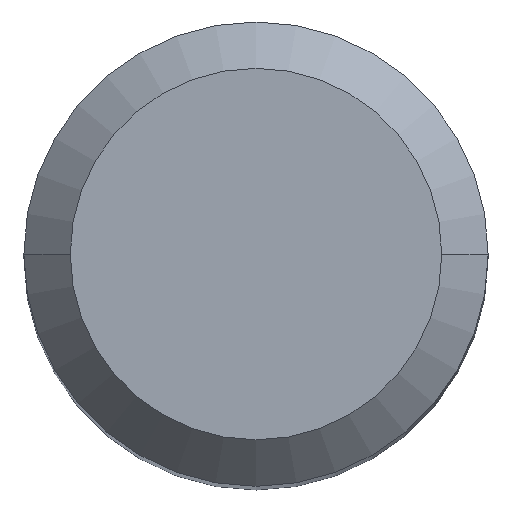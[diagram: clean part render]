
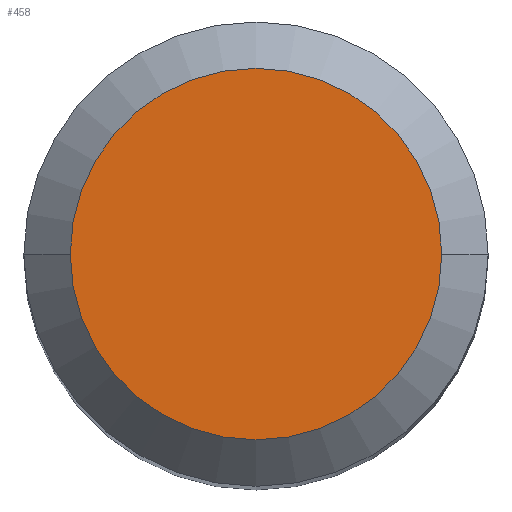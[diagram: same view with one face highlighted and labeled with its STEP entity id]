
A CAD part, top view. The second image highlights one B-rep face of the part: STEP entity #458.
In plain terms, the highlighted planar face has unit normal (0, 0, 1).
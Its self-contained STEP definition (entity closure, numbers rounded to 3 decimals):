
#3 = ORIENTED_EDGE ( 'NONE', *, *, #424, .F. ) ;
#17 = AXIS2_PLACEMENT_3D ( 'NONE', #326, #489, #214 ) ;
#23 = AXIS2_PLACEMENT_3D ( 'NONE', #440, #236, #402 ) ;
#34 = CARTESIAN_POINT ( 'NONE',  ( 0., 3.2, 0. ) ) ;
#37 = EDGE_CURVE ( 'NONE', #474, #127, #444, .T. ) ;
#124 = CARTESIAN_POINT ( 'NONE',  ( 3.2, 0., 0. ) ) ;
#127 = VERTEX_POINT ( 'NONE', #124 ) ;
#144 = PLANE ( 'NONE',  #152 ) ;
#152 = AXIS2_PLACEMENT_3D ( 'NONE', #34, #224, #265 ) ;
#214 = DIRECTION ( 'NONE',  ( -1., 0., 0. ) ) ;
#224 = DIRECTION ( 'NONE',  ( 0., 0., 1. ) ) ;
#229 = EDGE_LOOP ( 'NONE', ( #338, #3 ) ) ;
#230 = CIRCLE ( 'NONE', #17, 3.2 ) ;
#236 = DIRECTION ( 'NONE',  ( 0., 0., -1. ) ) ;
#265 = DIRECTION ( 'NONE',  ( 1., 0., 0. ) ) ;
#319 = FACE_OUTER_BOUND ( 'NONE', #229, .T. ) ;
#326 = CARTESIAN_POINT ( 'NONE',  ( 0., 0., 0. ) ) ;
#338 = ORIENTED_EDGE ( 'NONE', *, *, #37, .F. ) ;
#402 = DIRECTION ( 'NONE',  ( -1., 0., 0. ) ) ;
#424 = EDGE_CURVE ( 'NONE', #127, #474, #230, .T. ) ;
#440 = CARTESIAN_POINT ( 'NONE',  ( 0., 0., 0. ) ) ;
#444 = CIRCLE ( 'NONE', #23, 3.2 ) ;
#458 = ADVANCED_FACE ( 'NONE', ( #319 ), #144, .T. ) ;
#474 = VERTEX_POINT ( 'NONE', #497 ) ;
#489 = DIRECTION ( 'NONE',  ( 0., 0., -1. ) ) ;
#497 = CARTESIAN_POINT ( 'NONE',  ( -3.2, 0., 0. ) ) ;
